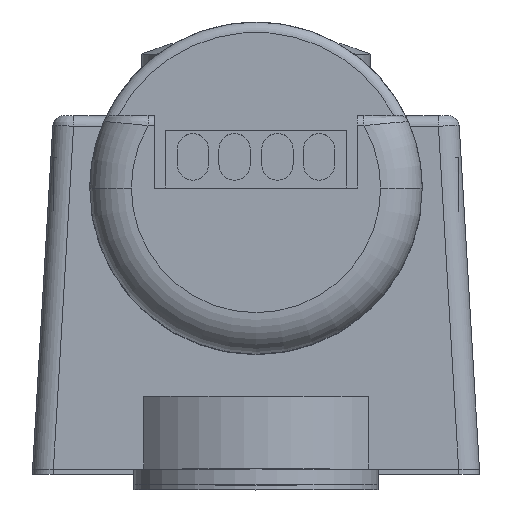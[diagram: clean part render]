
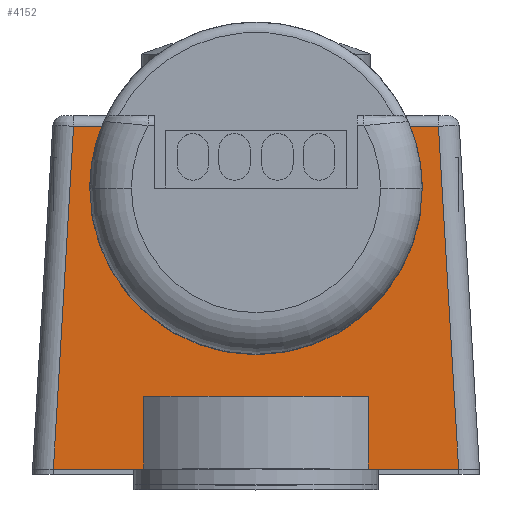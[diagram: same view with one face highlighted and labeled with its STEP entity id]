
A CAD part, top view. The second image highlights one B-rep face of the part: STEP entity #4152.
In plain terms, the highlighted planar face has unit normal (0, 0, 1).
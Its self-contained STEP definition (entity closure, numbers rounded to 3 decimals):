
#18 = CARTESIAN_POINT ( 'NONE',  ( 17.847, 1.05, 146. ) ) ;
#54 = DIRECTION ( 'NONE',  ( 0., -1., 0. ) ) ;
#57 = CARTESIAN_POINT ( 'NONE',  ( 0., 0., 146. ) ) ;
#64 = ORIENTED_EDGE ( 'NONE', *, *, #1737, .T. ) ;
#147 = EDGE_CURVE ( 'NONE', #1770, #1421, #5301, .T. ) ;
#151 = LINE ( 'NONE', #4267, #5239 ) ;
#314 = VECTOR ( 'NONE', #2115, 1000. ) ;
#511 = AXIS2_PLACEMENT_3D ( 'NONE', #57, #4417, #906 ) ;
#529 = DIRECTION ( 'NONE',  ( 1., 0., 0. ) ) ;
#641 = VECTOR ( 'NONE', #4686, 1000. ) ;
#646 = CARTESIAN_POINT ( 'NONE',  ( 10.808, -20., 146. ) ) ;
#794 = LINE ( 'NONE', #2745, #1705 ) ;
#828 = VERTEX_POINT ( 'NONE', #2943 ) ;
#906 = DIRECTION ( 'NONE',  ( 1., 0., 0. ) ) ;
#1021 = LINE ( 'NONE', #3588, #3195 ) ;
#1042 = AXIS2_PLACEMENT_3D ( 'NONE', #1187, #4673, #5551 ) ;
#1058 = CARTESIAN_POINT ( 'NONE',  ( 14.832, 6., 146. ) ) ;
#1067 = EDGE_CURVE ( 'NONE', #828, #3806, #1103, .T. ) ;
#1103 = LINE ( 'NONE', #2554, #314 ) ;
#1187 = CARTESIAN_POINT ( 'NONE',  ( 0., 0., 146. ) ) ;
#1225 = VERTEX_POINT ( 'NONE', #2125 ) ;
#1274 = LINE ( 'NONE', #18, #2505 ) ;
#1283 = VERTEX_POINT ( 'NONE', #3062 ) ;
#1317 = CARTESIAN_POINT ( 'NONE',  ( -10.808, -20., 146. ) ) ;
#1421 = VERTEX_POINT ( 'NONE', #2821 ) ;
#1479 = FACE_OUTER_BOUND ( 'NONE', #2631, .T. ) ;
#1497 = ORIENTED_EDGE ( 'NONE', *, *, #1926, .T. ) ;
#1625 = CARTESIAN_POINT ( 'NONE',  ( 17.555, 6., 146. ) ) ;
#1628 = CARTESIAN_POINT ( 'NONE',  ( -17.847, 1.05, 146. ) ) ;
#1666 = DIRECTION ( 'NONE',  ( -1., 0., 0. ) ) ;
#1705 = VECTOR ( 'NONE', #3657, 1000. ) ;
#1737 = EDGE_CURVE ( 'NONE', #4546, #1225, #3423, .T. ) ;
#1770 = VERTEX_POINT ( 'NONE', #3403 ) ;
#1808 = VECTOR ( 'NONE', #54, 1000. ) ;
#1926 = EDGE_CURVE ( 'NONE', #2462, #1967, #2665, .T. ) ;
#1967 = VERTEX_POINT ( 'NONE', #1058 ) ;
#1982 = ORIENTED_EDGE ( 'NONE', *, *, #147, .F. ) ;
#2049 = CARTESIAN_POINT ( 'NONE',  ( 19.497, -27., 146. ) ) ;
#2115 = DIRECTION ( 'NONE',  ( 1., 0., 0. ) ) ;
#2125 = CARTESIAN_POINT ( 'NONE',  ( -19.497, -27., 146. ) ) ;
#2157 = CIRCLE ( 'NONE', #1042, 16. ) ;
#2187 = PLANE ( 'NONE',  #5530 ) ;
#2199 = ORIENTED_EDGE ( 'NONE', *, *, #1067, .T. ) ;
#2218 = CARTESIAN_POINT ( 'NONE',  ( -14.832, 6., 146. ) ) ;
#2382 = CIRCLE ( 'NONE', #4032, 16. ) ;
#2462 = VERTEX_POINT ( 'NONE', #1625 ) ;
#2505 = VECTOR ( 'NONE', #3951, 1000. ) ;
#2554 = CARTESIAN_POINT ( 'NONE',  ( 21.5, -27., 146. ) ) ;
#2569 = ORIENTED_EDGE ( 'NONE', *, *, #5556, .F. ) ;
#2631 = EDGE_LOOP ( 'NONE', ( #4473, #5572, #4385, #3652, #64, #4088, #1982, #4759, #2569, #2199, #5135, #1497 ) ) ;
#2665 = LINE ( 'NONE', #2757, #4571 ) ;
#2745 = CARTESIAN_POINT ( 'NONE',  ( 10.808, -20., 146. ) ) ;
#2753 = EDGE_CURVE ( 'NONE', #1283, #5423, #2382, .T. ) ;
#2757 = CARTESIAN_POINT ( 'NONE',  ( 0., 6., 146. ) ) ;
#2796 = DIRECTION ( 'NONE',  ( -1., 0., 0. ) ) ;
#2800 = DIRECTION ( 'NONE',  ( 1., 0., 0. ) ) ;
#2821 = CARTESIAN_POINT ( 'NONE',  ( -10.808, -27., 146. ) ) ;
#2943 = CARTESIAN_POINT ( 'NONE',  ( 10.808, -27., 146. ) ) ;
#2975 = CARTESIAN_POINT ( 'NONE',  ( 21.5, -27., 146. ) ) ;
#3062 = CARTESIAN_POINT ( 'NONE',  ( 16., 0., 146. ) ) ;
#3091 = CARTESIAN_POINT ( 'NONE',  ( -16., 0., 146. ) ) ;
#3099 = DIRECTION ( 'NONE',  ( 0., 0., -1. ) ) ;
#3195 = VECTOR ( 'NONE', #2800, 1000. ) ;
#3263 = LINE ( 'NONE', #2975, #5373 ) ;
#3355 = EDGE_CURVE ( 'NONE', #1967, #1283, #3939, .T. ) ;
#3403 = CARTESIAN_POINT ( 'NONE',  ( -10.808, -20., 146. ) ) ;
#3423 = LINE ( 'NONE', #1628, #641 ) ;
#3557 = DIRECTION ( 'NONE',  ( 1., 0., 0. ) ) ;
#3588 = CARTESIAN_POINT ( 'NONE',  ( 0., -20., 146. ) ) ;
#3652 = ORIENTED_EDGE ( 'NONE', *, *, #3998, .T. ) ;
#3657 = DIRECTION ( 'NONE',  ( 0., 1., 0. ) ) ;
#3788 = EDGE_CURVE ( 'NONE', #5423, #4059, #2157, .T. ) ;
#3806 = VERTEX_POINT ( 'NONE', #2049 ) ;
#3886 = DIRECTION ( 'NONE',  ( 0., 0., 1. ) ) ;
#3920 = CARTESIAN_POINT ( 'NONE',  ( 0., 0., 146. ) ) ;
#3939 = CIRCLE ( 'NONE', #511, 16. ) ;
#3951 = DIRECTION ( 'NONE',  ( -0.059, 0.998, 0. ) ) ;
#3998 = EDGE_CURVE ( 'NONE', #4059, #4546, #151, .T. ) ;
#4032 = AXIS2_PLACEMENT_3D ( 'NONE', #4469, #3099, #529 ) ;
#4054 = EDGE_CURVE ( 'NONE', #1225, #1421, #3263, .T. ) ;
#4059 = VERTEX_POINT ( 'NONE', #2218 ) ;
#4088 = ORIENTED_EDGE ( 'NONE', *, *, #4054, .T. ) ;
#4152 = ADVANCED_FACE ( 'NONE', ( #1479 ), #2187, .T. ) ;
#4267 = CARTESIAN_POINT ( 'NONE',  ( 0., 6., 146. ) ) ;
#4277 = CARTESIAN_POINT ( 'NONE',  ( -17.555, 6., 146. ) ) ;
#4330 = DIRECTION ( 'NONE',  ( 1., 0., 0. ) ) ;
#4385 = ORIENTED_EDGE ( 'NONE', *, *, #3788, .T. ) ;
#4417 = DIRECTION ( 'NONE',  ( 0., 0., -1. ) ) ;
#4469 = CARTESIAN_POINT ( 'NONE',  ( 0., 0., 146. ) ) ;
#4473 = ORIENTED_EDGE ( 'NONE', *, *, #3355, .T. ) ;
#4546 = VERTEX_POINT ( 'NONE', #4277 ) ;
#4571 = VECTOR ( 'NONE', #2796, 1000. ) ;
#4652 = EDGE_CURVE ( 'NONE', #3806, #2462, #1274, .T. ) ;
#4673 = DIRECTION ( 'NONE',  ( 0., 0., -1. ) ) ;
#4686 = DIRECTION ( 'NONE',  ( -0.059, -0.998, 0. ) ) ;
#4759 = ORIENTED_EDGE ( 'NONE', *, *, #4952, .T. ) ;
#4952 = EDGE_CURVE ( 'NONE', #1770, #5627, #1021, .T. ) ;
#5135 = ORIENTED_EDGE ( 'NONE', *, *, #4652, .T. ) ;
#5239 = VECTOR ( 'NONE', #1666, 1000. ) ;
#5301 = LINE ( 'NONE', #1317, #1808 ) ;
#5373 = VECTOR ( 'NONE', #3557, 1000. ) ;
#5423 = VERTEX_POINT ( 'NONE', #3091 ) ;
#5530 = AXIS2_PLACEMENT_3D ( 'NONE', #3920, #3886, #4330 ) ;
#5551 = DIRECTION ( 'NONE',  ( 1., 0., 0. ) ) ;
#5556 = EDGE_CURVE ( 'NONE', #828, #5627, #794, .T. ) ;
#5572 = ORIENTED_EDGE ( 'NONE', *, *, #2753, .T. ) ;
#5627 = VERTEX_POINT ( 'NONE', #646 ) ;
